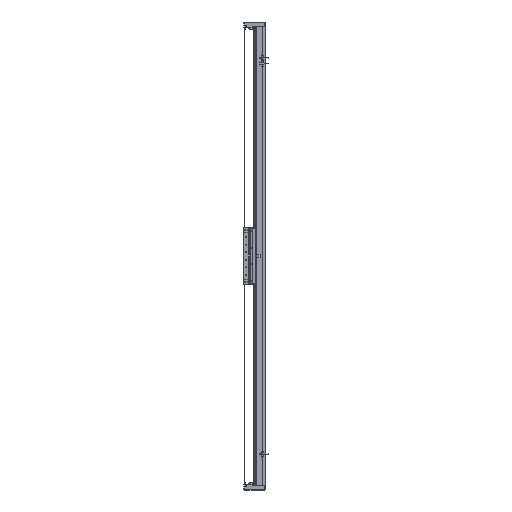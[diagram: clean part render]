
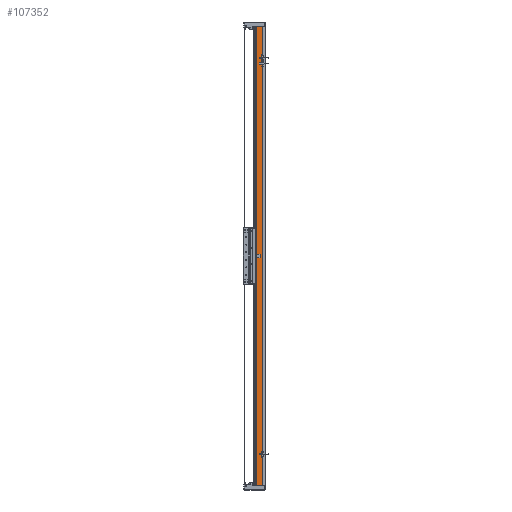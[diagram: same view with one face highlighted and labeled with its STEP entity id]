
A CAD part, left-side view. The second image highlights one B-rep face of the part: STEP entity #107352.
In plain terms, the highlighted planar face has unit normal (-1, 0, 0).
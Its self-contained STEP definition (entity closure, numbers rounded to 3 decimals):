
#60 = VERTEX_POINT ( 'NONE', #47721 ) ;
#2941 = VERTEX_POINT ( 'NONE', #20478 ) ;
#3147 = PLANE ( 'NONE',  #124079 ) ;
#11072 = CARTESIAN_POINT ( 'NONE',  ( -82.5, 36.95, 1020. ) ) ;
#14588 = LINE ( 'NONE', #104275, #44807 ) ;
#15514 = DIRECTION ( 'NONE',  ( 1., 0., 0. ) ) ;
#20478 = CARTESIAN_POINT ( 'NONE',  ( -82.5, 14.45, 1020. ) ) ;
#20515 = ORIENTED_EDGE ( 'NONE', *, *, #96417, .F. ) ;
#24697 = CARTESIAN_POINT ( 'NONE',  ( -82.5, 36.95, 1020. ) ) ;
#32447 = CARTESIAN_POINT ( 'NONE',  ( -82.5, 14.45, -1020. ) ) ;
#36702 = LINE ( 'NONE', #74104, #113054 ) ;
#40887 = EDGE_LOOP ( 'NONE', ( #75221, #20515, #73037, #98371 ) ) ;
#44807 = VECTOR ( 'NONE', #53245, 1000. ) ;
#47721 = CARTESIAN_POINT ( 'NONE',  ( -82.5, 36.95, -1020. ) ) ;
#49510 = VECTOR ( 'NONE', #112691, 1000. ) ;
#52726 = VERTEX_POINT ( 'NONE', #32447 ) ;
#53245 = DIRECTION ( 'NONE',  ( 0., 0., -1. ) ) ;
#64881 = EDGE_CURVE ( 'NONE', #78009, #60, #79855, .T. ) ;
#65330 = DIRECTION ( 'NONE',  ( 0., 1., 0. ) ) ;
#68723 = VECTOR ( 'NONE', #102960, 1000. ) ;
#73037 = ORIENTED_EDGE ( 'NONE', *, *, #118196, .F. ) ;
#73851 = FACE_OUTER_BOUND ( 'NONE', #40887, .T. ) ;
#74104 = CARTESIAN_POINT ( 'NONE',  ( -82.5, 36.95, 1020. ) ) ;
#75221 = ORIENTED_EDGE ( 'NONE', *, *, #102408, .T. ) ;
#78009 = VERTEX_POINT ( 'NONE', #78561 ) ;
#78561 = CARTESIAN_POINT ( 'NONE',  ( -82.5, 36.95, 1020. ) ) ;
#79855 = LINE ( 'NONE', #11072, #49510 ) ;
#96417 = EDGE_CURVE ( 'NONE', #2941, #52726, #14588, .T. ) ;
#98371 = ORIENTED_EDGE ( 'NONE', *, *, #64881, .T. ) ;
#102408 = EDGE_CURVE ( 'NONE', #60, #52726, #124527, .T. ) ;
#102960 = DIRECTION ( 'NONE',  ( 0., -1., 0. ) ) ;
#104275 = CARTESIAN_POINT ( 'NONE',  ( -82.5, 14.45, 1020. ) ) ;
#107352 = ADVANCED_FACE ( 'NONE', ( #73851 ), #3147, .F. ) ;
#112126 = CARTESIAN_POINT ( 'NONE',  ( -82.5, 36.95, -1020. ) ) ;
#112691 = DIRECTION ( 'NONE',  ( 0., 0., -1. ) ) ;
#113054 = VECTOR ( 'NONE', #114015, 1000. ) ;
#114015 = DIRECTION ( 'NONE',  ( 0., -1., 0. ) ) ;
#118196 = EDGE_CURVE ( 'NONE', #78009, #2941, #36702, .T. ) ;
#124079 = AXIS2_PLACEMENT_3D ( 'NONE', #24697, #15514, #65330 ) ;
#124527 = LINE ( 'NONE', #112126, #68723 ) ;
